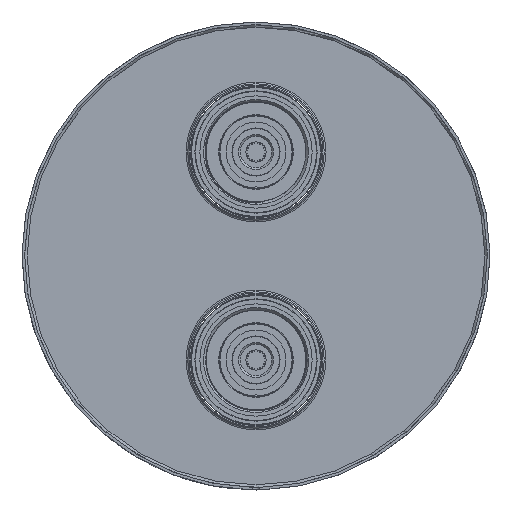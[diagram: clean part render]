
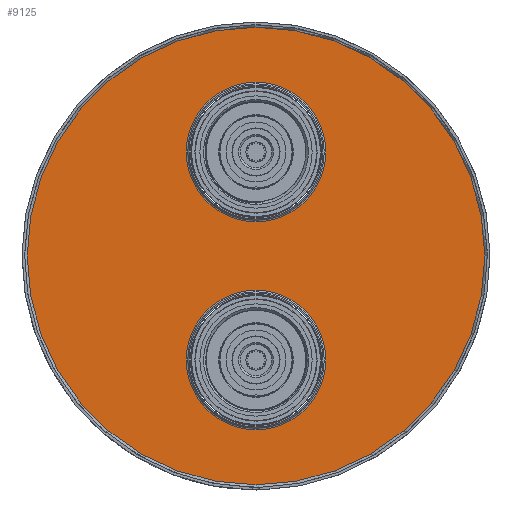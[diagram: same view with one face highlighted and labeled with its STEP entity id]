
A CAD part, left-side view. The second image highlights one B-rep face of the part: STEP entity #9125.
In plain terms, the highlighted planar face has unit normal (-1, 0, 0) as drawn and (0, 0, -1) by its records, which use the part's own axes.
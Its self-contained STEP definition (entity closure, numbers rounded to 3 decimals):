
#768=FACE_BOUND('',#2012,.T.);
#769=FACE_BOUND('',#2013,.T.);
#957=CIRCLE('',#9733,26.85);
#958=CIRCLE('',#9735,88.);
#959=CIRCLE('',#9736,26.85);
#1420=FACE_OUTER_BOUND('',#2011,.T.);
#2011=EDGE_LOOP('',(#6371));
#2012=EDGE_LOOP('',(#6372));
#2013=EDGE_LOOP('',(#6373));
#4046=VERTEX_POINT('',#13193);
#4047=VERTEX_POINT('',#13196);
#4048=VERTEX_POINT('',#13198);
#4991=EDGE_CURVE('',#4046,#4046,#957,.T.);
#4992=EDGE_CURVE('',#4047,#4047,#958,.T.);
#4993=EDGE_CURVE('',#4048,#4048,#959,.T.);
#6371=ORIENTED_EDGE('',*,*,#4992,.T.);
#6372=ORIENTED_EDGE('',*,*,#4993,.T.);
#6373=ORIENTED_EDGE('',*,*,#4991,.T.);
#8870=PLANE('',#9734);
#9125=ADVANCED_FACE('',(#1420,#768,#769),#8870,.T.);
#9733=AXIS2_PLACEMENT_3D('',#13194,#10752,#10753);
#9734=AXIS2_PLACEMENT_3D('',#13195,#10754,#10755);
#9735=AXIS2_PLACEMENT_3D('',#13197,#10756,#10757);
#9736=AXIS2_PLACEMENT_3D('',#13199,#10758,#10759);
#10752=DIRECTION('center_axis',(0.,0.,1.));
#10753=DIRECTION('ref_axis',(-1.,0.,0.));
#10754=DIRECTION('center_axis',(0.,0.,-1.));
#10755=DIRECTION('ref_axis',(-1.,0.,0.));
#10756=DIRECTION('center_axis',(0.,0.,-1.));
#10757=DIRECTION('ref_axis',(-1.,0.,0.));
#10758=DIRECTION('center_axis',(0.,0.,1.));
#10759=DIRECTION('ref_axis',(-1.,0.,0.));
#13193=CARTESIAN_POINT('',(26.85,-40.,11.));
#13194=CARTESIAN_POINT('Origin',(0.,-40.,11.));
#13195=CARTESIAN_POINT('Origin',(0.,0.,11.));
#13196=CARTESIAN_POINT('',(88.,0.,11.));
#13197=CARTESIAN_POINT('Origin',(0.,0.,11.));
#13198=CARTESIAN_POINT('',(26.85,40.,11.));
#13199=CARTESIAN_POINT('Origin',(0.,40.,11.));
